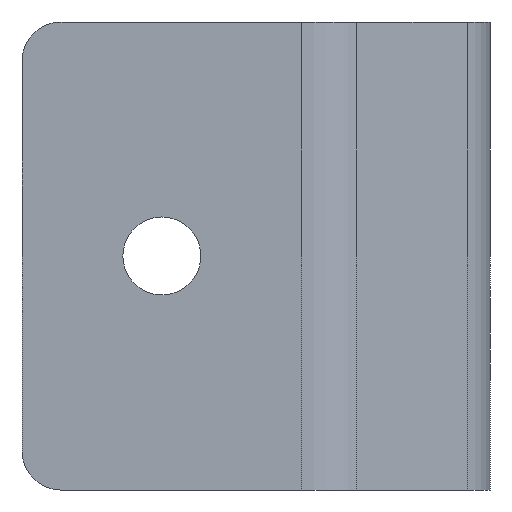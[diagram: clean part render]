
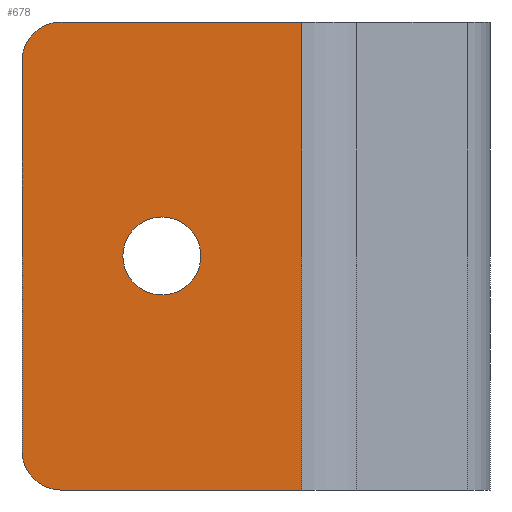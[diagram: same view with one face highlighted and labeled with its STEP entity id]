
A CAD part, left-side view. The second image highlights one B-rep face of the part: STEP entity #678.
In plain terms, the highlighted planar face has unit normal (-1, 0, 0).
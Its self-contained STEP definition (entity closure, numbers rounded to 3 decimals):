
#17=FACE_BOUND('',#85,.T.);
#27=PLANE('',#727);
#47=FACE_OUTER_BOUND('',#84,.T.);
#84=EDGE_LOOP('',(#484,#485,#486,#487,#488,#489));
#85=EDGE_LOOP('',(#490));
#130=LINE('',#1012,#194);
#141=LINE('',#1050,#205);
#142=LINE('',#1054,#206);
#143=LINE('',#1055,#207);
#194=VECTOR('',#800,30.858);
#205=VECTOR('',#829,50.);
#206=VECTOR('',#832,30.858);
#207=VECTOR('',#833,60.);
#256=CIRCLE('',#716,5.);
#266=CIRCLE('',#728,5.);
#267=CIRCLE('',#729,5.);
#292=VERTEX_POINT('',#1002);
#293=VERTEX_POINT('',#1003);
#296=VERTEX_POINT('',#1011);
#314=VERTEX_POINT('',#1049);
#315=VERTEX_POINT('',#1051);
#316=VERTEX_POINT('',#1053);
#317=VERTEX_POINT('',#1056);
#360=EDGE_CURVE('',#292,#293,#256,.T.);
#364=EDGE_CURVE('',#293,#296,#130,.T.);
#383=EDGE_CURVE('',#314,#292,#141,.T.);
#384=EDGE_CURVE('',#315,#314,#266,.T.);
#385=EDGE_CURVE('',#315,#316,#142,.T.);
#386=EDGE_CURVE('',#296,#316,#143,.T.);
#387=EDGE_CURVE('',#317,#317,#267,.T.);
#484=ORIENTED_EDGE('',*,*,#360,.F.);
#485=ORIENTED_EDGE('',*,*,#383,.F.);
#486=ORIENTED_EDGE('',*,*,#384,.F.);
#487=ORIENTED_EDGE('',*,*,#385,.T.);
#488=ORIENTED_EDGE('',*,*,#386,.F.);
#489=ORIENTED_EDGE('',*,*,#364,.F.);
#490=ORIENTED_EDGE('',*,*,#387,.T.);
#678=ADVANCED_FACE('',(#47,#17),#27,.T.);
#716=AXIS2_PLACEMENT_3D('',#1004,#792,#793);
#727=AXIS2_PLACEMENT_3D('',#1048,#827,#828);
#728=AXIS2_PLACEMENT_3D('',#1052,#830,#831);
#729=AXIS2_PLACEMENT_3D('',#1057,#834,#835);
#792=DIRECTION('center_axis',(1.,0.,0.));
#793=DIRECTION('ref_axis',(0.,0.707,0.707));
#800=DIRECTION('',(0.,-1.,0.));
#827=DIRECTION('center_axis',(-1.,0.,0.));
#828=DIRECTION('ref_axis',(0.,-1.,0.));
#829=DIRECTION('',(0.,0.,1.));
#830=DIRECTION('center_axis',(1.,0.,0.));
#831=DIRECTION('ref_axis',(0.,0.707,-0.707));
#832=DIRECTION('',(0.,-1.,0.));
#833=DIRECTION('',(0.,0.,-1.));
#834=DIRECTION('center_axis',(1.,0.,0.));
#835=DIRECTION('ref_axis',(0.,0.,-1.));
#1002=CARTESIAN_POINT('',(-65.,60.,55.));
#1003=CARTESIAN_POINT('',(-65.,55.,60.));
#1004=CARTESIAN_POINT('Origin',(-65.,55.,55.));
#1011=CARTESIAN_POINT('',(-65.,24.142,60.));
#1012=CARTESIAN_POINT('',(-65.,60.,60.));
#1048=CARTESIAN_POINT('Origin',(-65.,60.,0.));
#1049=CARTESIAN_POINT('',(-65.,60.,5.));
#1050=CARTESIAN_POINT('',(-65.,60.,0.));
#1051=CARTESIAN_POINT('',(-65.,55.,0.));
#1052=CARTESIAN_POINT('Origin',(-65.,55.,5.));
#1053=CARTESIAN_POINT('',(-65.,24.142,0.));
#1054=CARTESIAN_POINT('',(-65.,60.,0.));
#1055=CARTESIAN_POINT('',(-65.,24.142,0.));
#1056=CARTESIAN_POINT('',(-65.,42.071,35.));
#1057=CARTESIAN_POINT('Origin',(-65.,42.071,30.));
